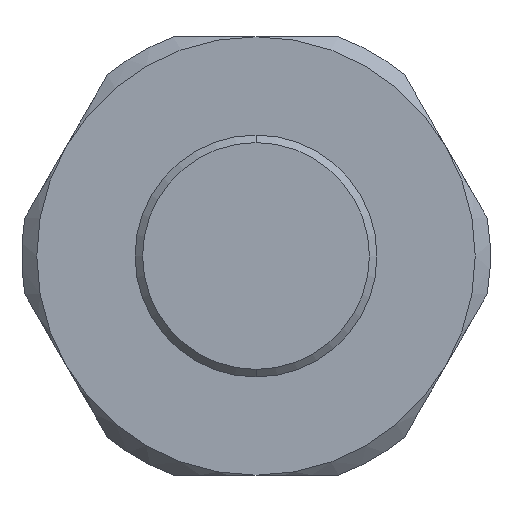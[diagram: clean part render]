
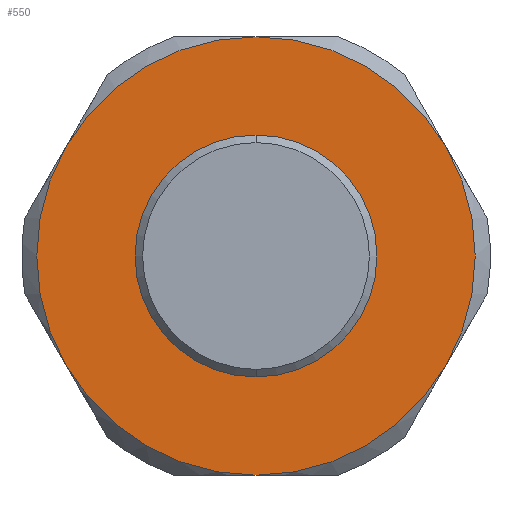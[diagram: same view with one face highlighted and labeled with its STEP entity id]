
A CAD part, left-side view. The second image highlights one B-rep face of the part: STEP entity #550.
In plain terms, the highlighted planar face has unit normal (-1, 0, 0).
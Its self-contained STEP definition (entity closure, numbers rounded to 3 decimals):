
#15 = DIRECTION ( 'NONE',  ( -1., 0., 0. ) ) ;
#75 = DIRECTION ( 'NONE',  ( 0., 0., 1. ) ) ;
#82 = VERTEX_POINT ( 'NONE', #969 ) ;
#102 = ORIENTED_EDGE ( 'NONE', *, *, #496, .T. ) ;
#116 = CARTESIAN_POINT ( 'NONE',  ( -3., 0., 8. ) ) ;
#126 = DIRECTION ( 'NONE',  ( 0., 0., -1. ) ) ;
#173 = EDGE_CURVE ( 'NONE', #1535, #82, #484, .T. ) ;
#191 = AXIS2_PLACEMENT_3D ( 'NONE', #605, #461, #961 ) ;
#203 = FACE_OUTER_BOUND ( 'NONE', #220, .T. ) ;
#220 = EDGE_LOOP ( 'NONE', ( #821, #1317, #621, #433, #1190, #102 ) ) ;
#224 = DIRECTION ( 'NONE',  ( 0., 0., -1. ) ) ;
#225 = VERTEX_POINT ( 'NONE', #116 ) ;
#272 = CIRCLE ( 'NONE', #1437, 14.5 ) ;
#298 = AXIS2_PLACEMENT_3D ( 'NONE', #861, #1208, #619 ) ;
#299 = AXIS2_PLACEMENT_3D ( 'NONE', #635, #1337, #224 ) ;
#303 = EDGE_CURVE ( 'NONE', #1039, #886, #456, .T. ) ;
#338 = ORIENTED_EDGE ( 'NONE', *, *, #1572, .T. ) ;
#341 = FACE_BOUND ( 'NONE', #1162, .T. ) ;
#351 = CARTESIAN_POINT ( 'NONE',  ( -3., 0., 0. ) ) ;
#362 = VERTEX_POINT ( 'NONE', #943 ) ;
#368 = CIRCLE ( 'NONE', #1483, 14.5 ) ;
#397 = CIRCLE ( 'NONE', #877, 8. ) ;
#414 = EDGE_CURVE ( 'NONE', #886, #1535, #983, .T. ) ;
#423 = DIRECTION ( 'NONE',  ( 0., 0., 1. ) ) ;
#425 = VERTEX_POINT ( 'NONE', #1525 ) ;
#433 = ORIENTED_EDGE ( 'NONE', *, *, #173, .T. ) ;
#438 = DIRECTION ( 'NONE',  ( 0., 0., 1. ) ) ;
#449 = AXIS2_PLACEMENT_3D ( 'NONE', #805, #1299, #533 ) ;
#456 = CIRCLE ( 'NONE', #1209, 14.5 ) ;
#461 = DIRECTION ( 'NONE',  ( -1., 0., 0. ) ) ;
#484 = CIRCLE ( 'NONE', #298, 14.5 ) ;
#496 = EDGE_CURVE ( 'NONE', #1554, #362, #272, .T. ) ;
#509 = CARTESIAN_POINT ( 'NONE',  ( -3., -12.557, 7.25 ) ) ;
#533 = DIRECTION ( 'NONE',  ( 0., 0., 1. ) ) ;
#550 = ADVANCED_FACE ( 'NONE', ( #203, #341 ), #1564, .T. ) ;
#605 = CARTESIAN_POINT ( 'NONE',  ( -3., 15.5, 0. ) ) ;
#616 = CIRCLE ( 'NONE', #299, 8. ) ;
#619 = DIRECTION ( 'NONE',  ( 0., 0., 1. ) ) ;
#621 = ORIENTED_EDGE ( 'NONE', *, *, #414, .T. ) ;
#635 = CARTESIAN_POINT ( 'NONE',  ( -3., 0., 0. ) ) ;
#685 = CARTESIAN_POINT ( 'NONE',  ( -3., 0., 0. ) ) ;
#693 = DIRECTION ( 'NONE',  ( -1., 0., 0. ) ) ;
#721 = CARTESIAN_POINT ( 'NONE',  ( -3., 12.557, -7.25 ) ) ;
#730 = ORIENTED_EDGE ( 'NONE', *, *, #1589, .T. ) ;
#805 = CARTESIAN_POINT ( 'NONE',  ( -3., 0., 0. ) ) ;
#821 = ORIENTED_EDGE ( 'NONE', *, *, #922, .T. ) ;
#858 = EDGE_CURVE ( 'NONE', #82, #1554, #1002, .T. ) ;
#861 = CARTESIAN_POINT ( 'NONE',  ( -3., 0., 0. ) ) ;
#870 = DIRECTION ( 'NONE',  ( 0., 0., 1. ) ) ;
#877 = AXIS2_PLACEMENT_3D ( 'NONE', #1006, #1491, #126 ) ;
#886 = VERTEX_POINT ( 'NONE', #721 ) ;
#922 = EDGE_CURVE ( 'NONE', #362, #1039, #368, .T. ) ;
#943 = CARTESIAN_POINT ( 'NONE',  ( -3., 0., 14.5 ) ) ;
#961 = DIRECTION ( 'NONE',  ( 0., 0., 1. ) ) ;
#969 = CARTESIAN_POINT ( 'NONE',  ( -3., -12.557, -7.25 ) ) ;
#983 = CIRCLE ( 'NONE', #1435, 14.5 ) ;
#1002 = CIRCLE ( 'NONE', #449, 14.5 ) ;
#1006 = CARTESIAN_POINT ( 'NONE',  ( -3., 0., 0. ) ) ;
#1015 = CARTESIAN_POINT ( 'NONE',  ( -3., 0., -14.5 ) ) ;
#1039 = VERTEX_POINT ( 'NONE', #1108 ) ;
#1108 = CARTESIAN_POINT ( 'NONE',  ( -3., 12.557, 7.25 ) ) ;
#1162 = EDGE_LOOP ( 'NONE', ( #338, #730 ) ) ;
#1188 = CARTESIAN_POINT ( 'NONE',  ( -3., 0., 0. ) ) ;
#1190 = ORIENTED_EDGE ( 'NONE', *, *, #858, .T. ) ;
#1208 = DIRECTION ( 'NONE',  ( -1., 0., 0. ) ) ;
#1209 = AXIS2_PLACEMENT_3D ( 'NONE', #1608, #15, #870 ) ;
#1277 = DIRECTION ( 'NONE',  ( -1., 0., 0. ) ) ;
#1299 = DIRECTION ( 'NONE',  ( -1., 0., 0. ) ) ;
#1317 = ORIENTED_EDGE ( 'NONE', *, *, #303, .T. ) ;
#1337 = DIRECTION ( 'NONE',  ( 1., 0., 0. ) ) ;
#1435 = AXIS2_PLACEMENT_3D ( 'NONE', #685, #1277, #423 ) ;
#1437 = AXIS2_PLACEMENT_3D ( 'NONE', #351, #693, #75 ) ;
#1483 = AXIS2_PLACEMENT_3D ( 'NONE', #1188, #1548, #438 ) ;
#1491 = DIRECTION ( 'NONE',  ( 1., 0., 0. ) ) ;
#1525 = CARTESIAN_POINT ( 'NONE',  ( -3., 0., -8. ) ) ;
#1535 = VERTEX_POINT ( 'NONE', #1015 ) ;
#1548 = DIRECTION ( 'NONE',  ( -1., 0., 0. ) ) ;
#1554 = VERTEX_POINT ( 'NONE', #509 ) ;
#1564 = PLANE ( 'NONE',  #191 ) ;
#1572 = EDGE_CURVE ( 'NONE', #425, #225, #397, .T. ) ;
#1589 = EDGE_CURVE ( 'NONE', #225, #425, #616, .T. ) ;
#1608 = CARTESIAN_POINT ( 'NONE',  ( -3., 0., 0. ) ) ;
